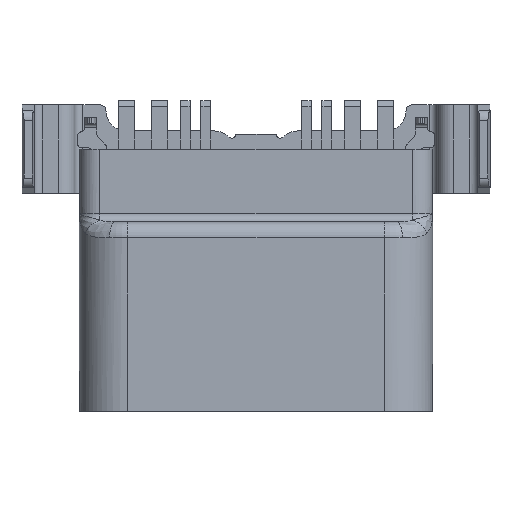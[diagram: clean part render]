
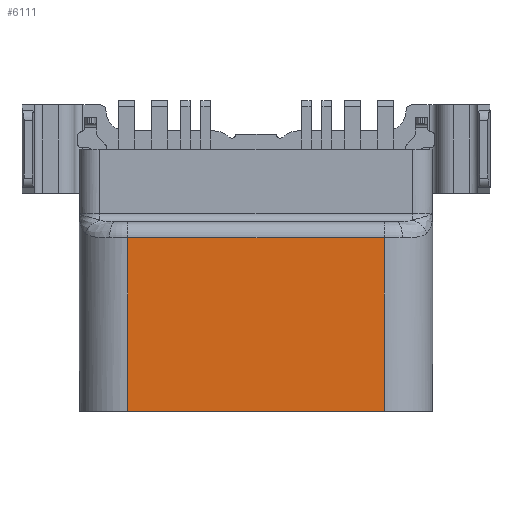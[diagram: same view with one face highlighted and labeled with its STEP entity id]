
A CAD part, front view. The second image highlights one B-rep face of the part: STEP entity #6111.
In plain terms, the highlighted planar face has unit normal (0, -1, 0).
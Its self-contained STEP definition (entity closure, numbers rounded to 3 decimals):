
#151 = CARTESIAN_POINT ( 'NONE',  ( -3.302, -1.48, 0.164 ) ) ;
#340 = VECTOR ( 'NONE', #9161, 1000. ) ;
#881 = LINE ( 'NONE', #13042, #340 ) ;
#1213 = VERTEX_POINT ( 'NONE', #14150 ) ;
#1429 = CARTESIAN_POINT ( 'NONE',  ( -3.175, -1.48, 0.25 ) ) ;
#1717 = VECTOR ( 'NONE', #13642, 1000. ) ;
#2800 = EDGE_CURVE ( 'NONE', #8020, #7898, #4908, .T. ) ;
#2858 = VECTOR ( 'NONE', #16534, 1000. ) ;
#3802 = EDGE_CURVE ( 'NONE', #15499, #1213, #8094, .T. ) ;
#4035 = FACE_OUTER_BOUND ( 'NONE', #15608, .T. ) ;
#4908 = LINE ( 'NONE', #14501, #10743 ) ;
#4991 = CARTESIAN_POINT ( 'NONE',  ( 3.175, -1.48, 4.55 ) ) ;
#5114 = EDGE_CURVE ( 'NONE', #7898, #15499, #15553, .T. ) ;
#6111 = ADVANCED_FACE ( 'NONE', ( #4035 ), #8340, .F. ) ;
#6224 = DIRECTION ( 'NONE',  ( 0., 0., -1. ) ) ;
#7898 = VERTEX_POINT ( 'NONE', #15120 ) ;
#8020 = VERTEX_POINT ( 'NONE', #4991 ) ;
#8094 = LINE ( 'NONE', #13373, #1717 ) ;
#8340 = PLANE ( 'NONE',  #16954 ) ;
#9158 = ORIENTED_EDGE ( 'NONE', *, *, #3802, .F. ) ;
#9161 = DIRECTION ( 'NONE',  ( -1., 0., 0. ) ) ;
#9409 = DIRECTION ( 'NONE',  ( 1., 0., 0. ) ) ;
#9770 = ORIENTED_EDGE ( 'NONE', *, *, #5114, .F. ) ;
#10743 = VECTOR ( 'NONE', #6224, 1000. ) ;
#13042 = CARTESIAN_POINT ( 'NONE',  ( 0., -1.48, 4.55 ) ) ;
#13373 = CARTESIAN_POINT ( 'NONE',  ( -3.175, -1.48, 2.4 ) ) ;
#13642 = DIRECTION ( 'NONE',  ( 0., 0., 1. ) ) ;
#14150 = CARTESIAN_POINT ( 'NONE',  ( -3.175, -1.48, 4.55 ) ) ;
#14501 = CARTESIAN_POINT ( 'NONE',  ( 3.175, -1.48, 2.4 ) ) ;
#14525 = EDGE_CURVE ( 'NONE', #8020, #1213, #881, .T. ) ;
#15120 = CARTESIAN_POINT ( 'NONE',  ( 3.175, -1.48, 0.25 ) ) ;
#15499 = VERTEX_POINT ( 'NONE', #1429 ) ;
#15553 = LINE ( 'NONE', #16883, #2858 ) ;
#15570 = ORIENTED_EDGE ( 'NONE', *, *, #2800, .F. ) ;
#15608 = EDGE_LOOP ( 'NONE', ( #15658, #9158, #9770, #15570 ) ) ;
#15658 = ORIENTED_EDGE ( 'NONE', *, *, #14525, .T. ) ;
#16370 = DIRECTION ( 'NONE',  ( 0., 1., 0. ) ) ;
#16534 = DIRECTION ( 'NONE',  ( -1., 0., 0. ) ) ;
#16883 = CARTESIAN_POINT ( 'NONE',  ( 0., -1.48, 0.25 ) ) ;
#16954 = AXIS2_PLACEMENT_3D ( 'NONE', #151, #16370, #9409 ) ;
